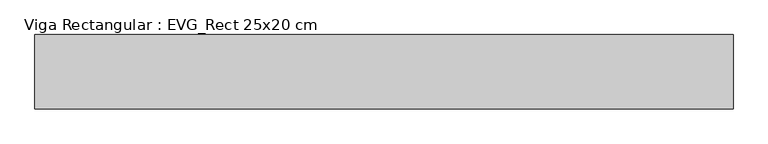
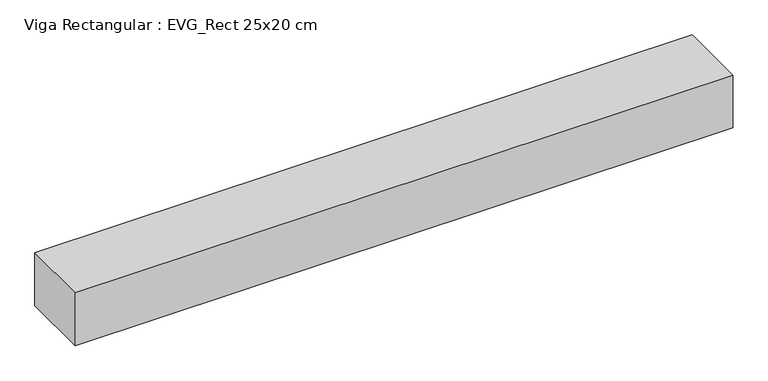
"""IFC4 building model written with IfcOpenShell, lengths in millimetres: beam geometry, Viga Rectangular : EVG_Rect 25x20 cm."""

import ifcopenshell
import ifcopenshell.guid

model = None  # the IFC model being written
_history = None  # IfcOwnerHistory: only IFC2X3 demands one
_inside = {}  # id of a spatial element -> (the spatial element, [elements in it])
_under = {}  # id of a project, library or spatial element -> (it, [spatial elements below it])
_declared = {}  # id of a project -> (the project, [libraries it declares])
_typed = {}  # id of a type object -> (the type object, [elements of that type])
_made_of = {}  # id of a material, layer set ... -> (it, [elements and type objects made of it])


def new_model(schema):
    """Start an empty IFC model of exactly this schema.

    Asked for "IFC4X3", IfcOpenShell would pick the latest addendum, in which some entities
    have other attributes; the version numbers below select the first issue.
    IFC2X3 requires an IfcOwnerHistory on every rooted entity: one is made here for all.
    """
    global model, _history
    if schema == "IFC4X3":
        model = ifcopenshell.file(schema_version=(4, 3, 0, 0))
    else:
        model = ifcopenshell.file(schema=schema)
    _inside.clear()
    _under.clear()
    _declared.clear()
    _typed.clear()
    _made_of.clear()
    _history = None
    if model.schema == "IFC2X3":
        org = make("IfcOrganization", Name="unknown")
        user = make(
            "IfcPersonAndOrganization",
            ThePerson=make("IfcPerson", FamilyName="unknown"),
            TheOrganization=org,
        )
        app = make(
            "IfcApplication",
            ApplicationDeveloper=org,
            Version="unknown",
            ApplicationFullName="unknown",
            ApplicationIdentifier="unknown",
        )
        _history = make(
            "IfcOwnerHistory",
            OwningUser=user,
            OwningApplication=app,
            ChangeAction="ADDED",
            CreationDate=0,
        )
    return model


def make(cls, **values):
    """One entity of the class cls with the attributes given. An attribute that is None is left unset."""
    return model.create_entity(
        cls, **{name: value for name, value in values.items() if value is not None}
    )


def rooted(cls, **values):
    """An entity with a GlobalId (a new one), such as an element, a storey or a relation."""
    return make(cls, GlobalId=ifcopenshell.guid.new(), OwnerHistory=_history, **values)


def si_unit(unit_type, name, prefix=None):
    """IfcSIUnit, for example si_unit("LENGTHUNIT", "METRE", prefix="MILLI")."""
    return make("IfcSIUnit", UnitType=unit_type, Prefix=prefix, Name=name)


def assignment(units):
    """IfcUnitAssignment: the units of a project."""
    return None if units is None else make("IfcUnitAssignment", Units=units)


def point(xyz):
    """IfcCartesianPoint."""
    return None if xyz is None else make("IfcCartesianPoint", Coordinates=xyz)


def direction(xyz):
    """IfcDirection."""
    return None if xyz is None else make("IfcDirection", DirectionRatios=xyz)


def frame(location, z_axis=None, x_axis=None):
    """IfcAxis2Placement3D, a coordinate frame: its origin and axes. An axis left out is left unset."""
    return make(
        "IfcAxis2Placement3D",
        Location=point(location),
        Axis=direction(z_axis),
        RefDirection=direction(x_axis),
    )


def origin():
    """The frame at (0, 0, 0) with its axes left unset."""
    return frame((0.0, 0.0, 0.0))


def place(relative_to, where):
    """IfcLocalPlacement: puts the frame where relative to a parent placement (None: the world)."""
    return make(
        "IfcLocalPlacement", PlacementRelTo=relative_to, RelativePlacement=where
    )


def context(
    kind, dimensions, precision=None, world=None, true_north=None, identifier=None
):
    """IfcGeometricRepresentationContext, for example the 3D "Model" context."""
    return make(
        "IfcGeometricRepresentationContext",
        ContextIdentifier=identifier,
        ContextType=kind,
        CoordinateSpaceDimension=dimensions,
        Precision=precision,
        WorldCoordinateSystem=world,
        TrueNorth=true_north,
    )


def project(units=None, contexts=None):
    """IfcProject with its units and contexts."""
    return rooted(
        "IfcProject",
        Name="project",
        RepresentationContexts=contexts,
        UnitsInContext=assignment(units),
    )


def spatial(cls, under=None, at=None, **own):
    """A site, building, storey or space (cls), placed at a placement, below another one or the project."""
    s = rooted(cls, ObjectPlacement=at, **own)
    if under is not None:
        _under.setdefault(under.id(), (under, []))[1].append(s)
    return s


def polyline(points):
    """IfcPolyline through the points."""
    return make("IfcPolyline", Points=[point(p) for p in points])


def outline(outer, holes=None, kind="AREA"):
    """IfcArbitraryClosedProfileDef: a profile drawn as a closed curve; with holes, ...WithVoids."""
    if holes is None:
        return make("IfcArbitraryClosedProfileDef", ProfileType=kind, OuterCurve=outer)
    return make(
        "IfcArbitraryProfileDefWithVoids",
        ProfileType=kind,
        OuterCurve=outer,
        InnerCurves=holes,
    )


def extrude(swept, where, along, depth):
    """IfcExtrudedAreaSolid: the profile swept, set in the frame where, extruded along a direction by depth."""
    return make(
        "IfcExtrudedAreaSolid",
        SweptArea=swept,
        Position=where,
        ExtrudedDirection=direction(along),
        Depth=depth,
    )


def shape(context_of_items, identifier, shape_type, items):
    """IfcShapeRepresentation: the items that make up one representation, for example the "Body"."""
    return make(
        "IfcShapeRepresentation",
        ContextOfItems=context_of_items,
        RepresentationIdentifier=identifier,
        RepresentationType=shape_type,
        Items=items,
    )


def source(mapping_origin, context_of_items, identifier, shape_type, items):
    """IfcRepresentationMap: a shape defined once, which mapped items show again and again."""
    return make(
        "IfcRepresentationMap",
        MappingOrigin=mapping_origin,
        MappedRepresentation=shape(context_of_items, identifier, shape_type, items),
    )


def transform(
    local_origin,
    x_axis=None,
    y_axis=None,
    z_axis=None,
    scale=None,
    scale2=None,
    scale3=None,
    uniform=True,
):
    """IfcCartesianTransformationOperator3D, or its non-uniform kind. x_axis, y_axis, z_axis: its Axis1, 2, 3."""
    if uniform:
        return make(
            "IfcCartesianTransformationOperator3D",
            Axis1=direction(x_axis),
            Axis2=direction(y_axis),
            LocalOrigin=point(local_origin),
            Scale=scale,
            Axis3=direction(z_axis),
        )
    return make(
        "IfcCartesianTransformationOperator3DnonUniform",
        Axis1=direction(x_axis),
        Axis2=direction(y_axis),
        LocalOrigin=point(local_origin),
        Scale=scale,
        Axis3=direction(z_axis),
        Scale2=scale2,
        Scale3=scale3,
    )


def mapped(mapping_source, mapping_target):
    """IfcMappedItem: shows the shape of a source again, moved by a transform."""
    return make(
        "IfcMappedItem", MappingSource=mapping_source, MappingTarget=mapping_target
    )


def made_of(thing, what):
    """Note that an element or type object is made of a material, layer set ...; save() writes the relation."""
    if what is not None:
        _made_of.setdefault(what.id(), (what, []))[1].append(thing)
    return thing


def element(
    cls,
    number,
    at=None,
    inside=None,
    cuts=None,
    type_object=None,
    material=None,
    context=None,
    identifier="Body",
    shape_type=None,
    held_by="IfcProductDefinitionShape",
    body=None,
    shapes=None,
    **own,
):
    """One element of the class cls, such as IfcWall. Its Tag is "e" and its number.

    at: its placement. inside: the storey or other place that contains it. cuts: it is an
    opening in that element (IfcRelVoidsElement). A single representation is given by context,
    identifier, shape_type and body (its items); several are given by shapes. held_by: the class
    of the entity that holds the representations. save() writes the other relations.
    """
    e = rooted(cls, Tag="e%d" % number, ObjectPlacement=at, **own)
    if body is not None:
        shapes = [shape(context, identifier, shape_type, body)]
    if shapes is not None:
        e.Representation = make(held_by, Representations=shapes)
    if inside is not None:
        _inside.setdefault(inside.id(), (inside, []))[1].append(e)
    if cuts is not None:
        rooted(
            "IfcRelVoidsElement", RelatingBuildingElement=cuts, RelatedOpeningElement=e
        )
    if type_object is not None:
        _typed.setdefault(type_object.id(), (type_object, []))[1].append(e)
    return made_of(e, material)


def aggregate(whole, parts):
    """IfcRelAggregates: a whole, such as a stair, and the parts it consists of."""
    return rooted("IfcRelAggregates", RelatingObject=whole, RelatedObjects=parts)


def save(model, path):
    """Write the relations noted so far, then the file.

    IfcRelAggregates (storeys below a building ...), IfcRelContainedInSpatialStructure (elements
    in a storey), IfcRelDefinesByType, IfcRelAssociatesMaterial and IfcRelDeclares: one each for
    every whole, place, type object, material and project.
    """
    for whole, parts in _under.values():
        aggregate(whole, parts)
    for where, things in _inside.values():
        rooted(
            "IfcRelContainedInSpatialStructure",
            RelatedElements=things,
            RelatingStructure=where,
        )
    for kind, things in _typed.values():
        rooted("IfcRelDefinesByType", RelatedObjects=things, RelatingType=kind)
    for what, things in _made_of.values():
        rooted("IfcRelAssociatesMaterial", RelatedObjects=things, RelatingMaterial=what)
    for by, libraries in _declared.values():
        rooted("IfcRelDeclares", RelatingContext=by, RelatedDefinitions=libraries)
    model.write(path)


def viga_rectangular_evg_rect_25x20_cm_6cef108b(model_context):
    return source(origin(), model_context, "Body", "SweptSolid", [
        extrude(outline(polyline([(1175.0, 125.0), (1175.0, -125.0), (-1175.0, -125.0), (-1175.0, 125.0), (1175.0, 125.0)])), frame((0.0, 0.0, -200.0), z_axis=(0.0, 0.0, 1.0), x_axis=(1.0, 0.0, 0.0)), (0.0, 0.0, 1.0), 200.0),
    ])


if __name__ == "__main__":
    model = new_model("IFC4")
    model_context = context("Model", 3, world=origin())
    ifc_project = project(units=[si_unit("LENGTHUNIT", "METRE", prefix="MILLI")], contexts=[model_context])
    site = spatial("IfcSite", under=ifc_project)
    building = spatial("IfcBuilding", under=site)
    placement = place(None, origin())
    viga_rectangular_evg_rect_25x20_cm_shape = viga_rectangular_evg_rect_25x20_cm_6cef108b(model_context)
    element("IfcBeam", 1, ObjectType="Viga Rectangular : EVG_Rect 25x20 cm", at=placement, inside=building, context=model_context, shape_type="MappedRepresentation", body=[
        mapped(viga_rectangular_evg_rect_25x20_cm_shape, transform((0.0, 0.0, 0.0), x_axis=(1.0, 0.0, 0.0), y_axis=(0.0, 1.0, 0.0), z_axis=(0.0, 0.0, 1.0))),
    ])
    save(model, "model.ifc")
